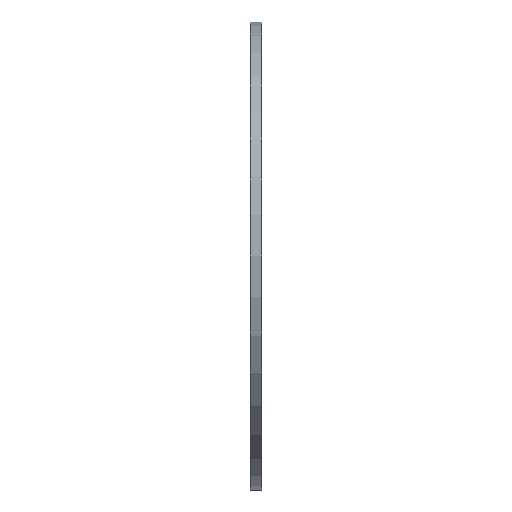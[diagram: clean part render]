
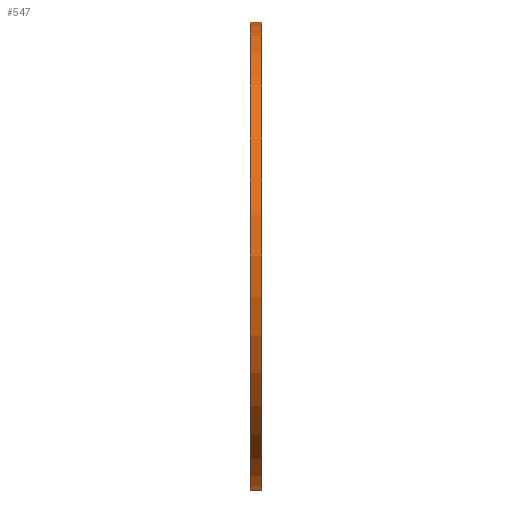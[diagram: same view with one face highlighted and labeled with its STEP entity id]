
A CAD part, left-side view. The second image highlights one B-rep face of the part: STEP entity #547.
In plain terms, the highlighted cylindrical face has radius 507.5 mm (diameter 1015 mm), a partial arc.
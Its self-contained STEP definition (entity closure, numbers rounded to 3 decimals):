
#10 = CARTESIAN_POINT ( 'NONE',  ( 0., 38.545, -507.5 ) ) ;
#11 = CIRCLE ( 'NONE', #1359, 507.5 ) ;
#192 = AXIS2_PLACEMENT_3D ( 'NONE', #1681, #1027, #249 ) ;
#204 = EDGE_LOOP ( 'NONE', ( #1497, #796, #1109, #676 ) ) ;
#207 = AXIS2_PLACEMENT_3D ( 'NONE', #1472, #1600, #1168 ) ;
#228 = EDGE_CURVE ( 'NONE', #565, #750, #363, .T. ) ;
#249 = DIRECTION ( 'NONE',  ( 0., 0., 1. ) ) ;
#363 = CIRCLE ( 'NONE', #192, 507.5 ) ;
#547 = ADVANCED_FACE ( 'NONE', ( #1322 ), #838, .T. ) ;
#565 = VERTEX_POINT ( 'NONE', #1302 ) ;
#642 = VERTEX_POINT ( 'NONE', #1819 ) ;
#676 = ORIENTED_EDGE ( 'NONE', *, *, #1162, .F. ) ;
#750 = VERTEX_POINT ( 'NONE', #2035 ) ;
#796 = ORIENTED_EDGE ( 'NONE', *, *, #228, .T. ) ;
#808 = CARTESIAN_POINT ( 'NONE',  ( 0., 38.545, 507.5 ) ) ;
#838 = CYLINDRICAL_SURFACE ( 'NONE', #207, 507.5 ) ;
#859 = LINE ( 'NONE', #10, #1916 ) ;
#871 = EDGE_CURVE ( 'NONE', #750, #1648, #1931, .T. ) ;
#1027 = DIRECTION ( 'NONE',  ( 0., 1., 0. ) ) ;
#1050 = VECTOR ( 'NONE', #1134, 1000. ) ;
#1066 = CARTESIAN_POINT ( 'NONE',  ( 0., 25., 0. ) ) ;
#1086 = DIRECTION ( 'NONE',  ( 0., 1., 0. ) ) ;
#1109 = ORIENTED_EDGE ( 'NONE', *, *, #871, .T. ) ;
#1134 = DIRECTION ( 'NONE',  ( 0., 1., 0. ) ) ;
#1162 = EDGE_CURVE ( 'NONE', #642, #1648, #11, .T. ) ;
#1168 = DIRECTION ( 'NONE',  ( 0., 0., 1. ) ) ;
#1302 = CARTESIAN_POINT ( 'NONE',  ( 0., 0., -507.5 ) ) ;
#1322 = FACE_OUTER_BOUND ( 'NONE', #204, .T. ) ;
#1359 = AXIS2_PLACEMENT_3D ( 'NONE', #1066, #1086, #1401 ) ;
#1401 = DIRECTION ( 'NONE',  ( 0., 0., 1. ) ) ;
#1472 = CARTESIAN_POINT ( 'NONE',  ( 0., 38.545, 0. ) ) ;
#1497 = ORIENTED_EDGE ( 'NONE', *, *, #1784, .F. ) ;
#1600 = DIRECTION ( 'NONE',  ( 0., 1., 0. ) ) ;
#1648 = VERTEX_POINT ( 'NONE', #1714 ) ;
#1681 = CARTESIAN_POINT ( 'NONE',  ( 0., 0., 0. ) ) ;
#1714 = CARTESIAN_POINT ( 'NONE',  ( 0., 25., 507.5 ) ) ;
#1771 = DIRECTION ( 'NONE',  ( 0., 1., 0. ) ) ;
#1784 = EDGE_CURVE ( 'NONE', #565, #642, #859, .T. ) ;
#1819 = CARTESIAN_POINT ( 'NONE',  ( 0., 25., -507.5 ) ) ;
#1916 = VECTOR ( 'NONE', #1771, 1000. ) ;
#1931 = LINE ( 'NONE', #808, #1050 ) ;
#2035 = CARTESIAN_POINT ( 'NONE',  ( 0., 0., 507.5 ) ) ;
